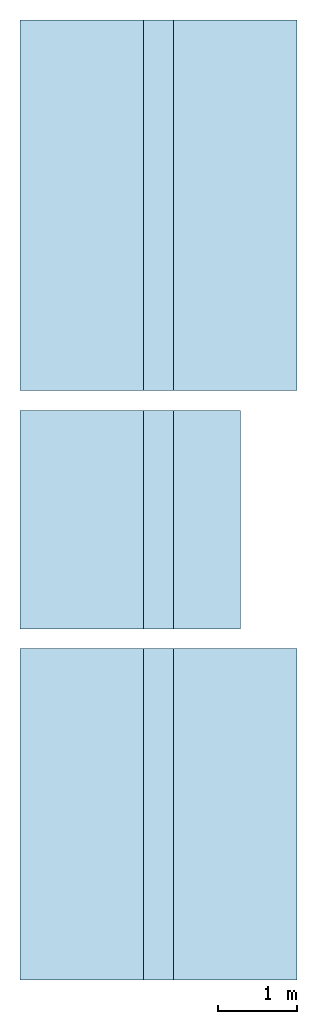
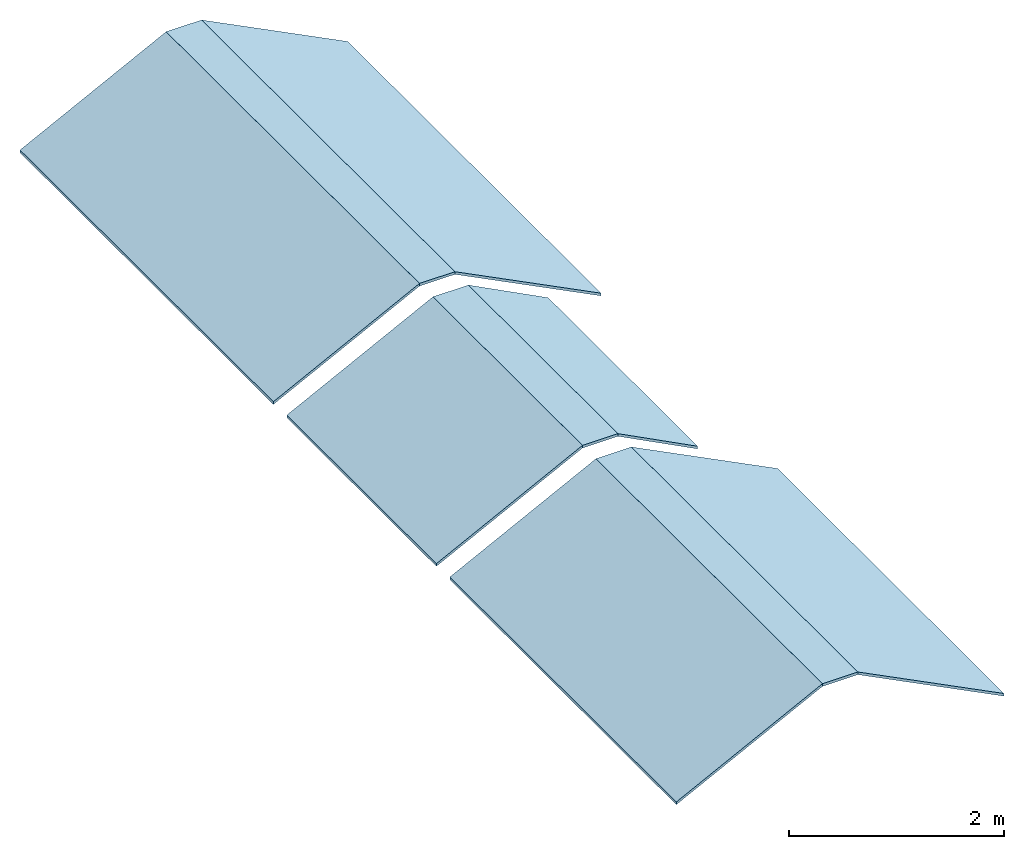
# One storey: 9 slabs.
"""IFC2X3 building model written with IfcOpenShell, lengths in metres."""

from ifc_helpers import new_model, entity, si_unit, converted_unit, derived_unit, direction, frame, frame_2d, origin, origin_2d_with_axis, place, context, subcontext, project, spatial, polyline, rectangle, outline, extrude, clip, halfspace, material, layer, layer_set, layer_usage, type_object, element, save


model = new_model("IFC2X3")

# Units and contexts
model_context = context("Model", 3, precision=1e-05, world=origin(), true_north=direction((6.123233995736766e-17, 1.0)))
body_context = subcontext(model_context, "Body", "Model", "MODEL_VIEW")
ifc_project = project(units=[si_unit("LENGTHUNIT", "METRE"), si_unit("AREAUNIT", "SQUARE_METRE"), si_unit("VOLUMEUNIT", "CUBIC_METRE"), si_unit("POWERUNIT", "WATT"), derived_unit("USERDEFINED", [(si_unit("MASSUNIT", "GRAM", prefix="KILO"), 1), (si_unit("TIMEUNIT", "SECOND"), -3)]), derived_unit("THERMALRESISTANCEUNIT", [(si_unit("MASSUNIT", "GRAM", prefix="KILO"), -1), (si_unit("TIMEUNIT", "SECOND"), 3), (si_unit("THERMODYNAMICTEMPERATUREUNIT", "KELVIN"), 1)]), derived_unit("USERDEFINED", [(si_unit("MASSUNIT", "GRAM", prefix="KILO"), 1), (si_unit("TIMEUNIT", "SECOND"), -2), (si_unit("THERMODYNAMICTEMPERATUREUNIT", "KELVIN"), -1)]), derived_unit("THERMALTRANSMITTANCEUNIT", [(si_unit("MASSUNIT", "GRAM", prefix="KILO"), 1), (si_unit("TIMEUNIT", "SECOND"), -3), (si_unit("THERMODYNAMICTEMPERATUREUNIT", "KELVIN"), -1)]), converted_unit("PLANEANGLEUNIT", "DEGREE", entity("IfcPlaneAngleMeasure", 0.017453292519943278), si_unit("PLANEANGLEUNIT", "RADIAN"), dimensions=[0, 0, 0, 0, 0, 0, 0]), derived_unit("MOMENTOFINERTIAUNIT", [(si_unit("LENGTHUNIT", "METRE"), 4)])], contexts=[model_context])

# Site, building, storey
site_placement = place(None, origin())
site = spatial("IfcSite", under=ifc_project, at=site_placement, Name="Default", CompositionType="ELEMENT")
building_placement = place(site_placement, origin())
building = spatial("IfcBuilding", under=site, at=building_placement, CompositionType="ELEMENT")
storey_placement = place(building_placement, frame((0.0, 0.0, 9.15)))
storey = spatial("IfcBuildingStorey", under=building, at=storey_placement, Name="First OK", CompositionType="ELEMENT", Elevation=9.15)

# Slabs
ifc_material = material(Name="Trockenbau - Gipsplatte")
ifc_layer_1 = layer(ifc_material, 0.03)
ifc_layer_set_1 = layer_set([ifc_layer_1], Name="Geschossdecke:Decke 1OG 30")
ifc_layer_usage_1 = layer_usage(ifc_layer_set_1, "AXIS3", "POSITIVE", 0.0)
slab_type_1 = type_object("IfcSlabType", Name="Geschossdecke:Decke 1OG 30", PredefinedType="FLOOR", material=ifc_layer_set_1)
slab_1_placement = place(storey_placement, origin())
element("IfcSlab", 1, at=slab_1_placement, inside=storey, type_object=slab_type_1, material=ifc_layer_usage_1, Name="Geschossdecke:Decke 1OG 30", ObjectType="Geschossdecke:Decke 1OG 30", PredefinedType="FLOOR", context=body_context, shape_type="SweptSolid", body=[
    extrude(rectangle(XDim=4.21, YDim=0.3799999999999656, at=frame_2d((2.220446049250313e-15, 0.0), x_axis=(1.0, 0.0))), frame((33.12252934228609, 17.94727237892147, -0.6242128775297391), z_axis=(0.0, 0.0, -1.0), x_axis=(0.0, 1.0, 0.0)), (0.0, 0.0, 1.0), 0.029999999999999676),
])
ifc_layer_usage_2 = layer_usage(ifc_layer_set_1, "AXIS3", "POSITIVE", 0.0)
slab_2_placement = place(storey_placement, origin())
element("IfcSlab", 2, at=slab_2_placement, inside=storey, type_object=slab_type_1, material=ifc_layer_usage_2, Name="Geschossdecke:Decke 1OG 30", ObjectType="Geschossdecke:Decke 1OG 30", PredefinedType="FLOOR", context=body_context, shape_type="SweptSolid", body=[
    extrude(rectangle(XDim=4.710000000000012, YDim=0.3799999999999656, at=origin_2d_with_axis()), frame((33.12252934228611, 25.687272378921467, -0.6242128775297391), z_axis=(0.0, 0.0, -1.0), x_axis=(0.0, 1.0, 0.0)), (0.0, 0.0, 1.0), 0.029999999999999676),
])
ifc_layer_usage_3 = layer_usage(ifc_layer_set_1, "AXIS3", "POSITIVE", 0.0)
slab_3_placement = place(storey_placement, origin())
element("IfcSlab", 3, at=slab_3_placement, inside=storey, type_object=slab_type_1, material=ifc_layer_usage_3, Name="Geschossdecke:Decke 1OG 30", ObjectType="Geschossdecke:Decke 1OG 30", PredefinedType="FLOOR", context=body_context, shape_type="SweptSolid", body=[
    extrude(rectangle(XDim=2.779999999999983, YDim=0.3799999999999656, at=origin_2d_with_axis()), frame((33.1225293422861, 21.692272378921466, -0.6242128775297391), z_axis=(0.0, 0.0, -1.0), x_axis=(0.0, 1.0, 0.0)), (0.0, 0.0, 1.0), 0.029999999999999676),
])
ifc_layer_2 = layer(ifc_material, 0.03)
ifc_layer_set_2 = layer_set([ifc_layer_2], Name="Geschossdecke:1OG Decke 30")
ifc_layer_usage_4 = layer_usage(ifc_layer_set_2, "AXIS3", "POSITIVE", 0.0)
slab_type_2 = type_object("IfcSlabType", Name="Geschossdecke:1OG Decke 30", PredefinedType="FLOOR", material=ifc_layer_set_2)
slab_4_placement = place(storey_placement, origin())
element("IfcSlab", 4, at=slab_4_placement, inside=storey, type_object=slab_type_2, material=ifc_layer_usage_4, Name="Geschossdecke:1OG Decke 30", ObjectType="Geschossdecke:1OG Decke 30", PredefinedType="FLOOR", context=body_context, shape_type="Clipping", body=[
    clip(clip(extrude(outline(polyline([(-2.105003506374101, -0.8788281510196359), (2.1049964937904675, -0.8788281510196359), (2.1050035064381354, 0.8788113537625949), (-2.1049964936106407, 0.8788239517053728), (-2.105003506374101, -0.8788281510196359)])), frame((32.14827929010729, 17.947272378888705, -1.0207917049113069), z_axis=(0.45124812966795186, 7.890412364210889e-06, -0.8923985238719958), x_axis=(0.0, 1.0, 8.841803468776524e-06)), (-8.841803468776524e-06, -0.4512481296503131, 0.8923985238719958), 0.03362576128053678), halfspace(frame((32.14827741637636, 17.94727237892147, -1.0507945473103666), z_axis=(0.4512481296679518, 7.890412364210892e-06, -0.8923985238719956), x_axis=(0.0, -1.0, -8.84180346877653e-06)), False)), halfspace(frame((32.14827741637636, 17.94727237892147, -1.0207945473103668), z_axis=(-0.4512481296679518, -7.890412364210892e-06, 0.8923985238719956), x_axis=(0.0, -1.0, -8.84180346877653e-06)), False)),
])
ifc_layer_usage_5 = layer_usage(ifc_layer_set_2, "AXIS3", "POSITIVE", 0.0)
slab_5_placement = place(storey_placement, origin())
element("IfcSlab", 5, at=slab_5_placement, inside=storey, type_object=slab_type_2, material=ifc_layer_usage_5, Name="Geschossdecke:1OG Decke 30", ObjectType="Geschossdecke:1OG Decke 30", PredefinedType="FLOOR", context=body_context, shape_type="Clipping", body=[
    clip(clip(extrude(outline(polyline([(-2.1049964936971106, -0.8788187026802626), (2.105003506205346, -0.8788187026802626), (2.1049964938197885, 0.8788208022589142), (-2.1050035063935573, 0.8788166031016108), (-2.1049964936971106, -0.8788187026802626)])), frame((34.09680459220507, 17.947272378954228, -1.0207447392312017), z_axis=(-0.45123126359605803, 7.890487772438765e-06, -0.8924070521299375), x_axis=(0.0, 1.0, 8.841803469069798e-06)), (-8.841803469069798e-06, 0.45123126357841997, 0.8924070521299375), 0.033625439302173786), halfspace(frame((34.09680365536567, 17.947272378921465, -1.050749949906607), z_axis=(-0.45123126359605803, 7.89048777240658e-06, -0.8924070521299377), x_axis=(0.0, 1.0, 8.841803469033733e-06)), False)), halfspace(frame((34.09680365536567, 17.947272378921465, -1.0207499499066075), z_axis=(0.45123126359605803, -7.89048777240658e-06, 0.8924070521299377), x_axis=(0.0, 1.0, 8.841803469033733e-06)), False)),
])
ifc_layer_usage_6 = layer_usage(ifc_layer_set_2, "AXIS3", "POSITIVE", 0.0)
slab_6_placement = place(storey_placement, origin())
element("IfcSlab", 6, at=slab_6_placement, inside=storey, type_object=slab_type_2, material=ifc_layer_usage_6, Name="Geschossdecke:1OG Decke 30", ObjectType="Geschossdecke:1OG Decke 30", PredefinedType="FLOOR", context=body_context, shape_type="Clipping", body=[
    clip(clip(extrude(outline(polyline([(-2.355003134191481, -0.8788281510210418), (2.3549968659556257, -0.8788281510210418), (2.3550031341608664, 0.8788113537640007), (-2.354996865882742, 0.8788239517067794), (-2.355003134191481, -0.8788281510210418)])), frame((32.1482792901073, 25.687272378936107, -1.020791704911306), z_axis=(0.4512481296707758, 7.052788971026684e-06, -0.8923985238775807), x_axis=(0.0, 1.0, 7.903183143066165e-06)), (-7.903183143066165e-06, -0.45124812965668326, 0.8923985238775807), 0.03362576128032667), halfspace(frame((32.148277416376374, 25.687272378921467, -1.0507945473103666), z_axis=(0.4512481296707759, 7.052788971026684e-06, -0.8923985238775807), x_axis=(0.0, -1.0, -7.903183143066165e-06)), False)), halfspace(frame((32.148277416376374, 25.687272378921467, -1.0207945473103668), z_axis=(-0.4512481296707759, -7.052788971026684e-06, 0.8923985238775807), x_axis=(0.0, -1.0, -7.903183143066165e-06)), False)),
])
ifc_layer_usage_7 = layer_usage(ifc_layer_set_2, "AXIS3", "POSITIVE", 0.0)
slab_7_placement = place(storey_placement, origin())
element("IfcSlab", 7, at=slab_7_placement, inside=storey, type_object=slab_type_2, material=ifc_layer_usage_7, Name="Geschossdecke:1OG Decke 30", ObjectType="Geschossdecke:1OG Decke 30", PredefinedType="FLOOR", context=body_context, shape_type="Clipping", body=[
    clip(clip(extrude(outline(polyline([(-2.35499686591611, -0.8788187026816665), (2.3550031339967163, -0.8788187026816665), (2.3549968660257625, 0.8788208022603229), (-2.3550031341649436, 0.8788166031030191), (-2.35499686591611, -0.8788187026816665)])), frame((34.09680459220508, 25.68727237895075, -1.0207447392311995), z_axis=(-0.4512312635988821, 7.052856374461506e-06, -0.8924070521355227), x_axis=(0.0, 1.0, 7.90318314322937e-06)), (-7.90318314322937e-06, 0.45123126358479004, 0.8924070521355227), 0.03362543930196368), halfspace(frame((34.09680365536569, 25.687272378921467, -1.050749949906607), z_axis=(-0.45123126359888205, 7.052856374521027e-06, -0.8924070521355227), x_axis=(0.0, 1.0, 7.903183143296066e-06)), False)), halfspace(frame((34.09680365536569, 25.687272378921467, -1.0207499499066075), z_axis=(0.45123126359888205, -7.052856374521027e-06, 0.8924070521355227), x_axis=(0.0, 1.0, 7.903183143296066e-06)), False)),
])
ifc_layer_usage_8 = layer_usage(ifc_layer_set_2, "AXIS3", "POSITIVE", 0.0)
slab_8_placement = place(storey_placement, origin())
element("IfcSlab", 8, at=slab_8_placement, inside=storey, type_object=slab_type_2, material=ifc_layer_usage_8, Name="Geschossdecke:1OG Decke 30", ObjectType="Geschossdecke:1OG Decke 30", PredefinedType="FLOOR", context=body_context, shape_type="Clipping", body=[
    clip(clip(extrude(outline(polyline([(-1.3900053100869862, -0.8788281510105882), (1.3899946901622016, -0.8788281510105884), (1.3900053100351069, 0.8788113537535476), (-1.3899946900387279, 0.8788239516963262), (-1.3900053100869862, -0.8788281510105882)])), frame((32.14827929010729, 21.69227237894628, -1.020791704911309), z_axis=(0.4512481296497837, 1.1949149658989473e-05, -0.8923985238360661), x_axis=(0.0, 1.0, 1.3389925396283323e-05)), (-1.3389925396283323e-05, -0.4512481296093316, 0.8923985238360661), 0.03362576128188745), halfspace(frame((32.14827741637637, 21.69227237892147, -1.0507945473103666), z_axis=(0.4512481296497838, 1.1949149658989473e-05, -0.8923985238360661), x_axis=(0.0, -1.0, -1.3389925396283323e-05)), False)), halfspace(frame((32.14827741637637, 21.69227237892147, -1.0207945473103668), z_axis=(-0.4512481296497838, -1.1949149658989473e-05, 0.8923985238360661), x_axis=(0.0, -1.0, -1.3389925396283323e-05)), False)),
])
ifc_layer_usage_9 = layer_usage(ifc_layer_set_2, "AXIS3", "POSITIVE", 0.0)
slab_9_placement = place(storey_placement, origin())
element("IfcSlab", 9, at=slab_9_placement, inside=storey, type_object=slab_type_2, material=ifc_layer_usage_9, Name="Geschossdecke:1OG Decke 30", ObjectType="Geschossdecke:1OG Decke 30", PredefinedType="FLOOR", context=body_context, shape_type="Clipping", body=[
    clip(clip(extrude(outline(polyline([(-1.3899970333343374, -0.48203855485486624), (1.3900029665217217, -0.48203855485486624), (1.389997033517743, 0.4820406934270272), (-1.3900029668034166, 0.4820364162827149), (-1.3899970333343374, -0.48203855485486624)])), frame((33.74064868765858, 21.69227237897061, -0.8457445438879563), z_axis=(-0.459611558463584, 1.1891861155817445e-05, -0.8881200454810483), x_axis=(0.0, 1.0, 1.3389925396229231e-05)), (-1.3389925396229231e-05, 0.4596115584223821, 0.8881200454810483), 0.033788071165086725), halfspace(frame((33.74064773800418, 21.692272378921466, -0.8757499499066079), z_axis=(-0.45961155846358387, 1.189186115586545e-05, -0.8881200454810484), x_axis=(0.0, 1.0, 1.3389925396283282e-05)), False)), halfspace(frame((33.74064773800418, 21.692272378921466, -0.8457499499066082), z_axis=(0.45961155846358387, -1.189186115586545e-05, 0.8881200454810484), x_axis=(0.0, 1.0, 1.3389925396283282e-05)), False)),
])

save(model, "model.ifc")
